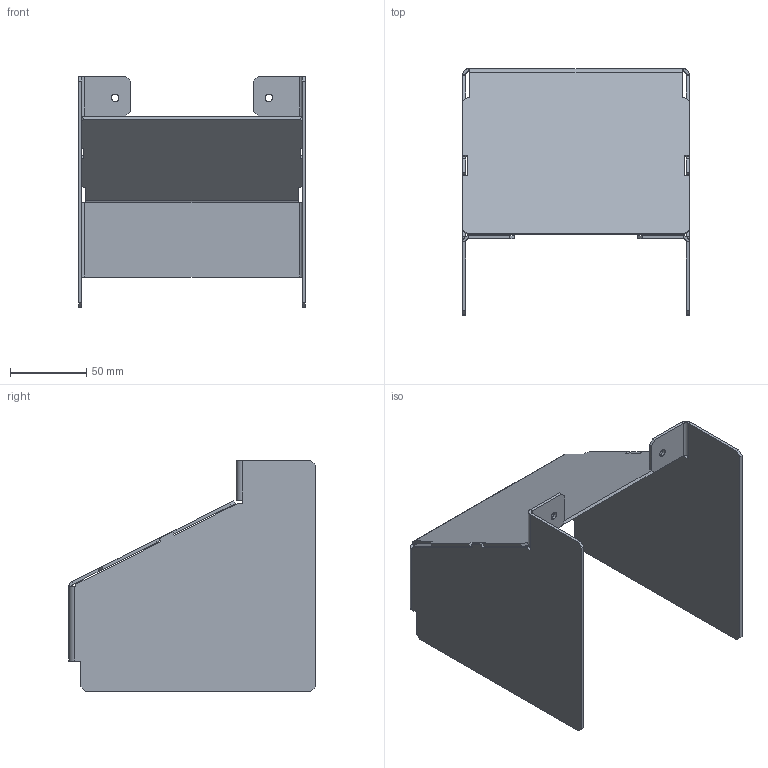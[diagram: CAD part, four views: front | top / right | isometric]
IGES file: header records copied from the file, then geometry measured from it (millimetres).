
Start section: SolidWorks IGES file using analytic representation for surfaces
Global section: file name: \\Brjgs100\dfsweg\GROUPS\BR_SC_JGS_WA_TECNICO\ENG\Usuarios\Rodrigob\conversão\Reles de Sobrecarga\Produto\Acessorios\BMPRW317-CWM400\BMPRW317-CWM400.IGS; native system: SolidWorks 2014; preprocessor: SolidWorks 2014; author: rodrigob; date: 141121.130915; units: millimetre
Bounding box: 149 x 162 x 151.76 mm (x, y, z)
Surface area: 129273.2 mm2 (no closed solid volume)
Topology: 0 solids, 0 shells, 102 faces, 772 edges, 772 vertices
Faces by surface type: bspline 88, revolution 14
